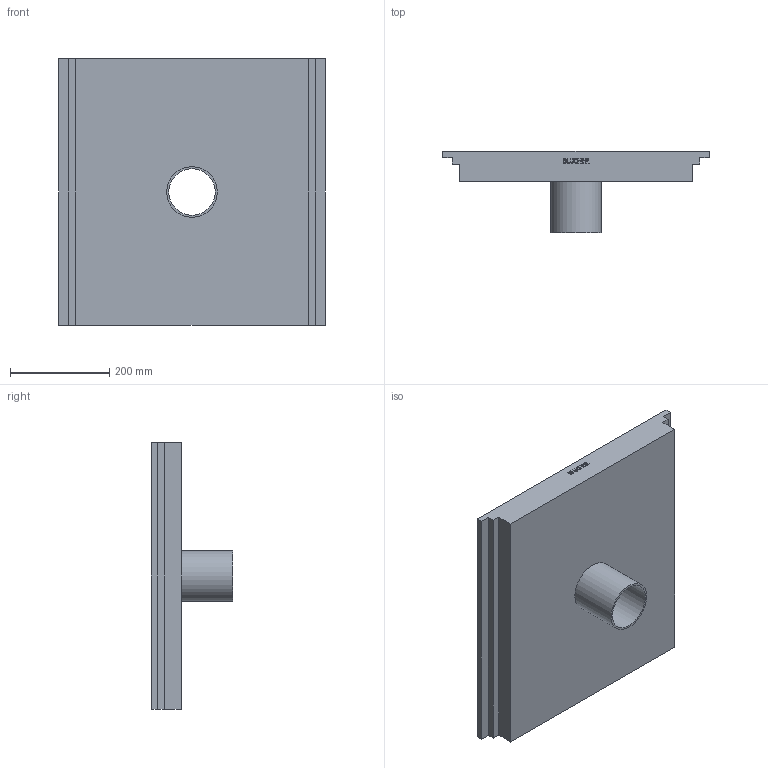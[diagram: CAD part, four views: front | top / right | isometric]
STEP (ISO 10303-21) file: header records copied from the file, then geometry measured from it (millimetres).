
FILE_DESCRIPTION((''),'2;1');
FILE_NAME('I:\WATTS\3D_CAD\3D_CAD_Models\Blucher_Drains\BKC_KitchenChannels\BKC-300\WebsiteFiles\3D\STEP\BKC-304-2.stp','2009-11-30T09:09:12',('menesek'),(''),'Autodesk Inventor 2010','Autodesk Inventor 2010','');
FILE_SCHEMA(('AUTOMOTIVE_DESIGN { 1 0 10303 214 1 1 1 1 }'));
Length unit declared in the file: inch
Products named in the file (1): BKC-304-2
Bounding box: 537 x 163 x 537 mm (x, y, z)
Volume: 2718965.2 mm3; surface area: 858785.6 mm2
Topology: 1 solids, 1 shells, 142 faces, 385 edges, 257 vertices
Faces by surface type: plane 95, bspline 45, cylinder 2
Full cylindrical faces by diameter (mm): 93.6 x1, 101.6 x1
Entity records: 4799 total; most frequent: CARTESIAN_POINT 1501, ORIENTED_EDGE 764, DIRECTION 492, EDGE_CURVE 382, VECTOR 288, LINE 288, VERTEX_POINT 256, EDGE_LOOP 158
